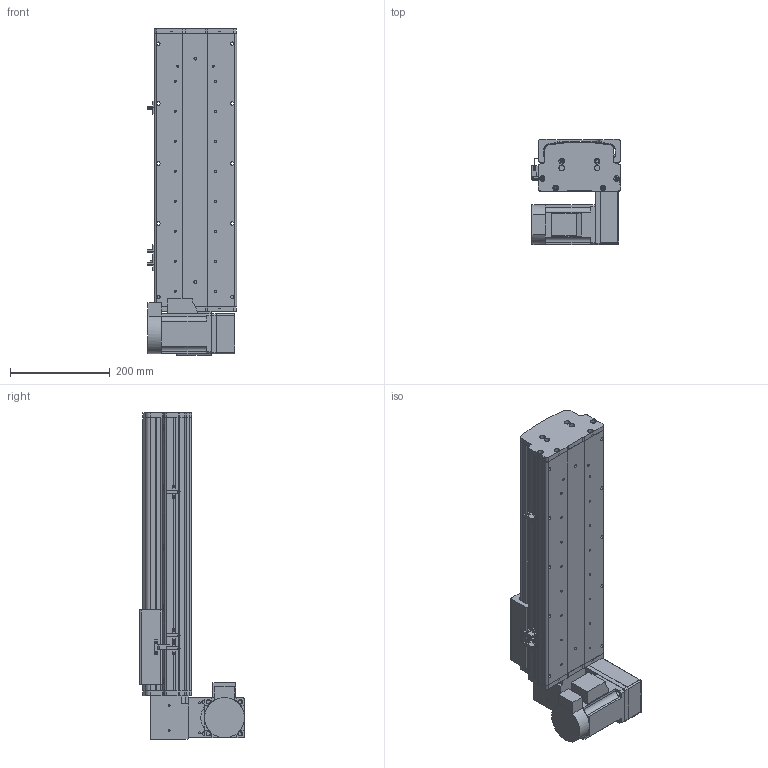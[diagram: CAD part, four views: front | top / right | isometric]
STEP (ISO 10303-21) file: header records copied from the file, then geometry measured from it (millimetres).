
FILE_DESCRIPTION (( 'STEP AP214' ), '1' );
FILE_NAME ('KSD165B-S300-MRD-CM.STEP', '2017-10-16T09:16:34', ( '微软用户' ), ( '微软中国' ), 'SwSTEP 2.0', 'SolidWorks 2014', '' );
FILE_SCHEMA (( 'AUTOMOTIVE_DESIGN' ));
Length unit declared in the file: millimetre
Products named in the file (18): 130宽模组保护罩上下左右折-同步带; 肣翐M4X35樓6; U倰嫖萇假蚾璃; U倰嫖萇EEㄜSX672; 覜茼え68遵圉猾敕; KSD165模组-同步带-防撞垫2; KSD165模组同步带-防撞垫1; KSD165耀郪-ヶ傷啣1-肮祭湍; KSD165模组-后端板1-同步带; KSD165模组-同步带滑动座-最新版; KSD165B-S300-MRD-CM; 拸秶雄ん750W侜督萇儂; 165宽马达安装板同步带右; KSD165模组-同步带防尘盖1-300行程-最新版; KSD165模组同步带底板-300行程-最新; HTPA26S5M250-A-H8 750W萇儂蚚; HTPA26S5M250-A-H8 400W萇儂蚚 ; 130宽模组马达安装板连板上下折丝杆同步带
Assembly tree (22 placements, depth 2):
  KSD165B-S300-MRD-CM
    KSD165模组-同步带滑动座-最新版
    KSD165模组-后端板1-同步带
    KSD165耀郪-ヶ傷啣1-肮祭湍
    KSD165模组同步带-防撞垫1
    KSD165模组-同步带-防撞垫2
    覜茼え68遵圉猾敕
    U倰嫖萇EEㄜSX672  x3
    U倰嫖萇假蚾璃  x3
    肣翐M4X35樓6  x2
    130宽模组保护罩上下左右折-同步带
    130宽模组马达安装板连板上下折丝杆同步带
    HTPA26S5M250-A-H8 400W萇儂蚚 
    HTPA26S5M250-A-H8 750W萇儂蚚
    KSD165模组同步带底板-300行程-最新
    KSD165模组-同步带防尘盖1-300行程-最新版
    165宽马达安装板同步带右
    拸秶雄ん750W侜督萇儂
Bounding box: 178.7 x 210 x 654 mm (x, y, z)
Volume: 4761429.6 mm3; surface area: 1098601.5 mm2
Topology: 23 solids, 23 shells, 1897 faces, 5324 edges, 3470 vertices
Faces by surface type: cylinder 1187, plane 594, cone 116
Entity records: 60230 total; most frequent: CARTESIAN_POINT 12314, DIRECTION 9966, ORIENTED_EDGE 9236, EDGE_CURVE 4618, AXIS2_PLACEMENT_3D 3891, VERTEX_POINT 3041, CIRCLE 2204, VECTOR 2184
